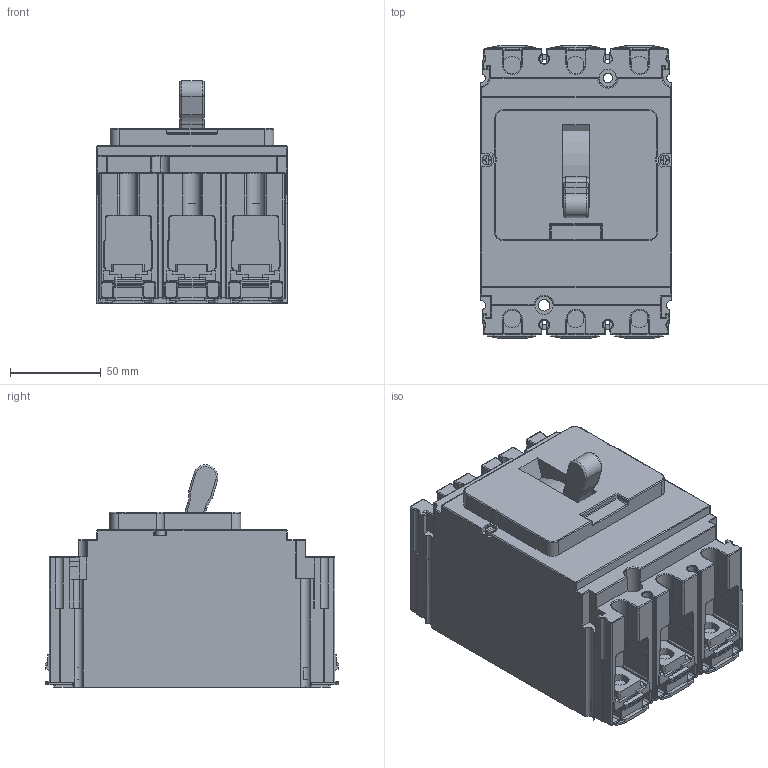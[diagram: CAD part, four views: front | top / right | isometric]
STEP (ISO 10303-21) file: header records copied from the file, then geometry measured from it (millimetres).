
FILE_DESCRIPTION((''),'2;1');
FILE_NAME('ASM0002_ASM','2020-12-16T12:41:46',('user'),('Schneider-Electric'),'CREO PARAMETRIC BY PTC INC, 2018300','CREO PARAMETRIC BY PTC INC, 2018300','');
FILE_SCHEMA(('CONFIG_CONTROL_DESIGN'));
Length unit declared in the file: millimetre
Products named in the file (2): C25H34V250_3D-SIMPLIFIED; ASM0002_ASM
Assembly tree (1 placements, depth 2):
  ASM0002_ASM
    C25H34V250_3D-SIMPLIFIED
Bounding box: 104.72 x 161.24 x 122.29 mm (x, y, z)
Volume: 1266672.6 mm3; surface area: 122461.3 mm2
Topology: 2 solids, 2 shells, 1550 faces, 4158 edges, 2606 vertices
Faces by surface type: plane 773, cylinder 539, torus 140, bspline 52, extrusion 32, sphere 14
Entity records: 51444 total; most frequent: CARTESIAN_POINT 12569, ORIENTED_EDGE 8316, DIRECTION 7942, EDGE_CURVE 4158, VECTOR 2782, LINE 2750, VERTEX_POINT 2606, AXIS2_PLACEMENT_3D 2580
